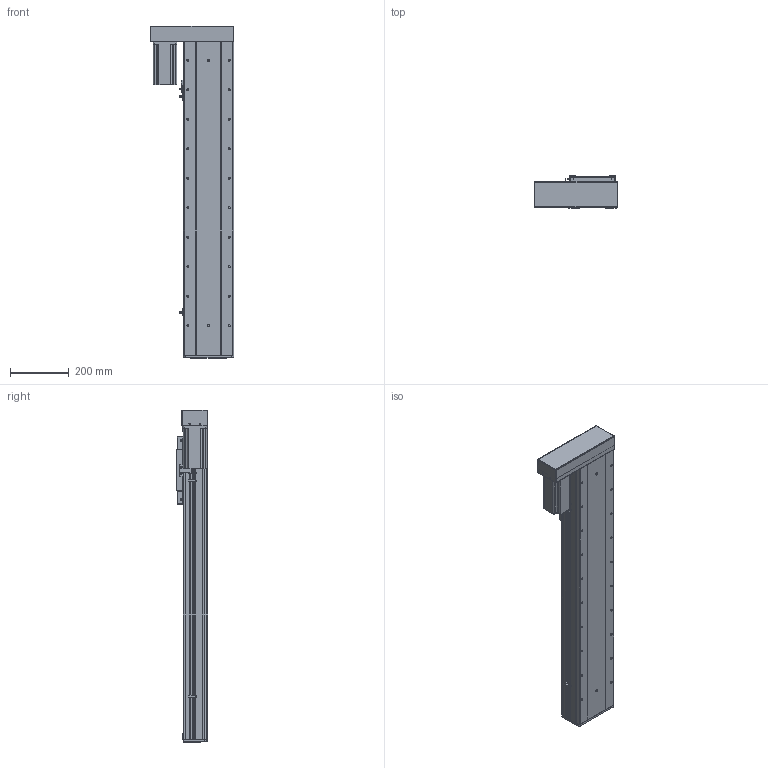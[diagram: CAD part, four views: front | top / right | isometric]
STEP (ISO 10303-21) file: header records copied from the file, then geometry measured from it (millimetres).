
FILE_DESCRIPTION (( 'STEP AP203' ), '1' );
FILE_NAME ('RY170F-L2020-300-LK.SLDASM_750.step', '2021-03-02T09:00:41', ( '盈信电脑' ), ( '东莞市道滘镇水果街19号' ), 'SwSTEP 2.0', 'SolidWorks 2012', '' );
FILE_SCHEMA (( 'CONFIG_CONTROL_DESIGN' ));
Length unit declared in the file: millimetre
Products named in the file (20): RY170F-滅鳥奻裔; RY170F-300眻蟀祥凄詩湍-LK_750; 滅袉蝶18-10; RY170F-佪裝臏賑輸20蹟譫; RY170F-300眻蟀倰第奻裔啣-LK_750; RY170F-丝杆铝滑块连接板; RY170F-300眻蟀倰第菁釱-LK_750; RY170F-蛌殏萇儂假蚾啣; 怢湛750W萇儂ㄗ80遺ㄘ; RY170F酘衵殏萇儂欶; RY170F-L2020-300-LK.SLDASM_750; RY170F-詩湍揤踡輸; 滅袉蝶18-24; 侐源滅袉蝶; RY170F-酘衵殏萇儂釱; RY170F-揤踡謫假蚾粣; RY170F-綴裔啣; RY170F俋离覜茼え; 覜茼ん672; RY100F-詩湍揤踡謫
Assembly tree (24 placements, depth 2):
  RY170F-L2020-300-LK.SLDASM_750
    RY170F-滅鳥奻裔
    RY170F-300眻蟀祥凄詩湍-LK_750
    RY170F-300眻蟀倰第菁釱-LK_750
    RY170F-佪裝臏賑輸20蹟譫
    RY170F-丝杆铝滑块连接板
    RY170F-300眻蟀倰第奻裔啣-LK_750  x2
    滅袉蝶18-10
    RY100F-詩湍揤踡謫
    RY170F-綴裔啣
    覜茼ん672  x3
    RY170F俋离覜茼え
    RY170F-揤踡謫假蚾粣
    RY170F-詩湍揤踡輸  x2
    滅袉蝶18-24
    侐源滅袉蝶  x2
    RY170F-酘衵殏萇儂釱
    RY170F-蛌殏萇儂假蚾啣
    怢湛750W萇儂ㄗ80遺ㄘ
    RY170F酘衵殏萇儂欶
Bounding box: 283 x 107 x 1126 mm (x, y, z)
Volume: 6848806.5 mm3; surface area: 2211917.6 mm2
Topology: 24 solids, 24 shells, 1865 faces, 5166 edges, 3272 vertices
Faces by surface type: cylinder 885, plane 760, cone 212, bspline 8
Entity records: 53463 total; most frequent: CARTESIAN_POINT 10764, DIRECTION 8675, ORIENTED_EDGE 8256, EDGE_CURVE 4128, AXIS2_PLACEMENT_3D 3133, VERTEX_POINT 2692, VECTOR 2409, LINE 2409
